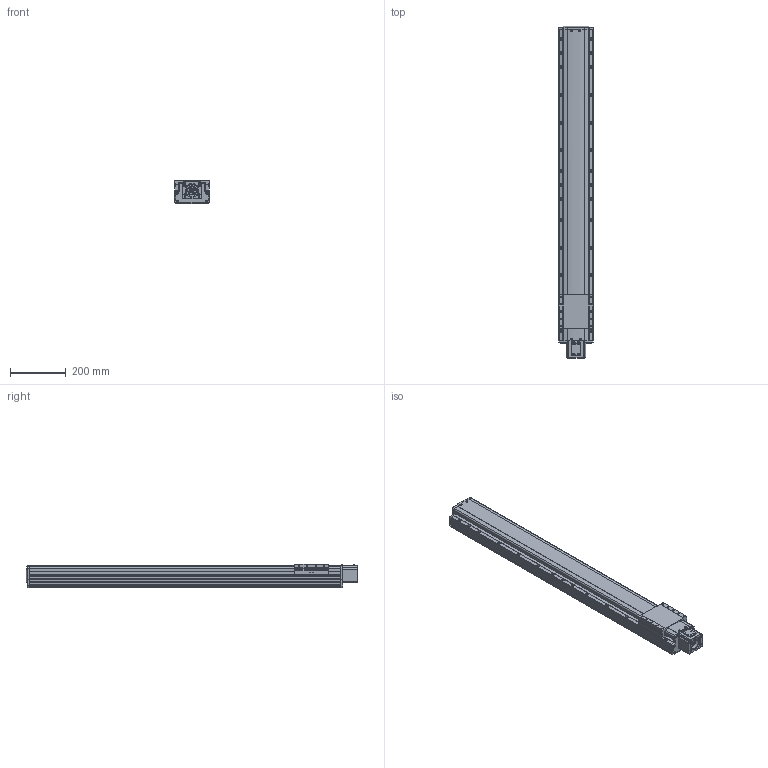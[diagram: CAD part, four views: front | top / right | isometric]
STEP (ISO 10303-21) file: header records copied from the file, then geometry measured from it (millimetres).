
FILE_DESCRIPTION(('STEP AP214'),'1');
FILE_NAME('Z:/Web/3D/PSA125/STP/PSA125-900 (3D)/PSA125ㅁㅁ-900S.stp','2014-06-23T04:51:14',(' '),(' '),'Spatial InterOp 3D',' ',' ');
FILE_SCHEMA(('automotive_design'));
Length unit declared in the file: millimetre
Products named in the file (35): 스크루 : Round - M4.0 x 10.0; RRCV-PA120; SLIDE; BASE; FRCV-PA120-1(기준 뿔 제거); RR1500; 스크루 : Round - M4.0 x 6.0; 너트 : Square - M10.0 x 220.7419; SSFX-SAN65; CPLCV-SAN65; 스크루 : Round - M3.0 x 6.0; MTHZ-PA120-S60A-3; 스크루 : Socket - M4.0 x 20.0; FRCV; NONE
Bounding box: 125 x 1194.6 x 86 mm (x, y, z)
Volume: 9672404 mm3; surface area: 808036.6 mm2
Topology: 35 solids, 69 shells, 3262 faces, 8378 edges, 5256 vertices
Faces by surface type: plane 1477, cylinder 1071, cone 449, torus 174, sphere 50, bspline 41
Entity records: 128668 total; most frequent: CARTESIAN_POINT 21366, DIRECTION 17556, ORIENTED_EDGE 16396, EDGE_CURVE 8198, AXIS2_PLACEMENT_3D 6370, VERTEX_POINT 5256, LINE 4816, VECTOR 4816
